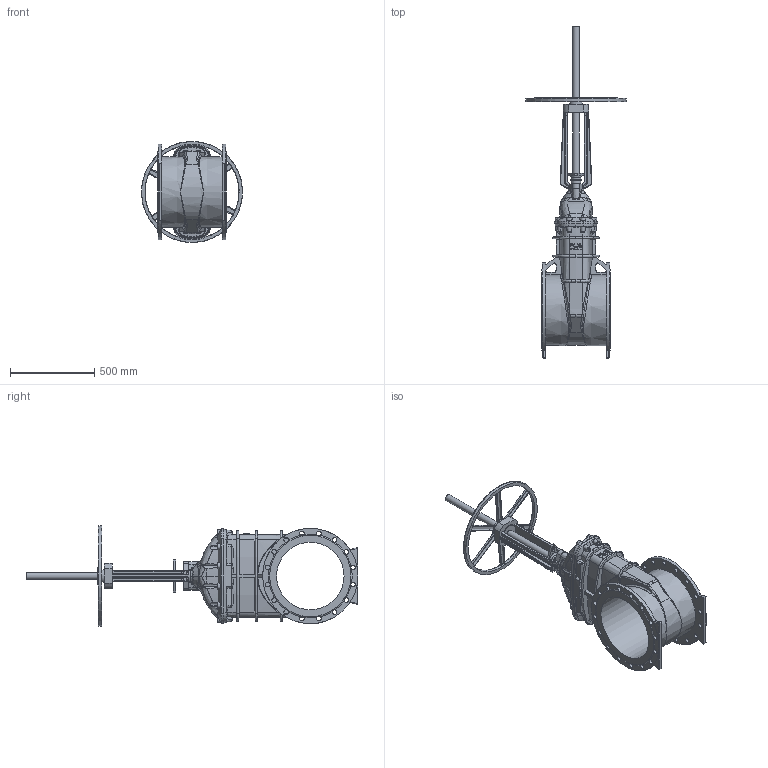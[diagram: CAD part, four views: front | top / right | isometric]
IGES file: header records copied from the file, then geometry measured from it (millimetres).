
Start section: SolidWorks IGES file using analytic representation for surfaces
Global section: file name: \\avksan2\techshare\PBM outline export from Enovia\O_21_34_DN400_40XXXXX open_AA0.igs; native system: SolidWorks 2012; preprocessor: SolidWorks 2012; author: pbm; date: 200212.105142; units: millimetre
Bounding box: 598.51 x 1967.5 x 598.51 mm (x, y, z)
Surface area: 3150800.6 mm2 (no closed solid volume)
Topology: 0 solids, 0 shells, 857 faces, 4869 edges, 4791 vertices
Faces by surface type: revolution 431, bspline 426
